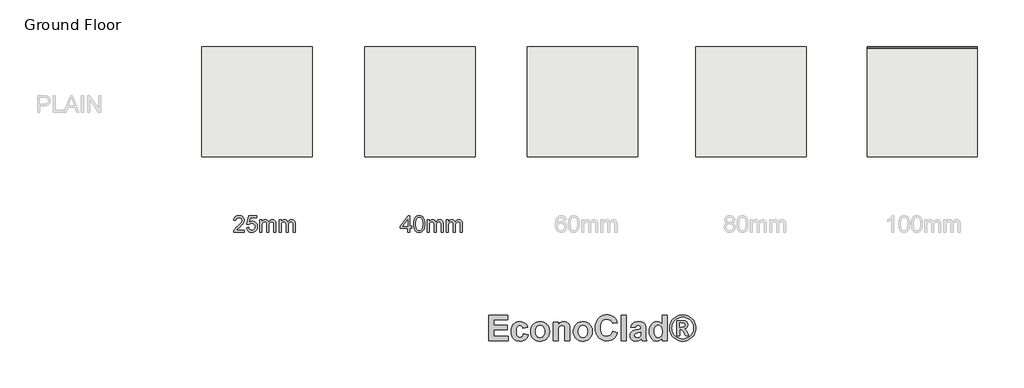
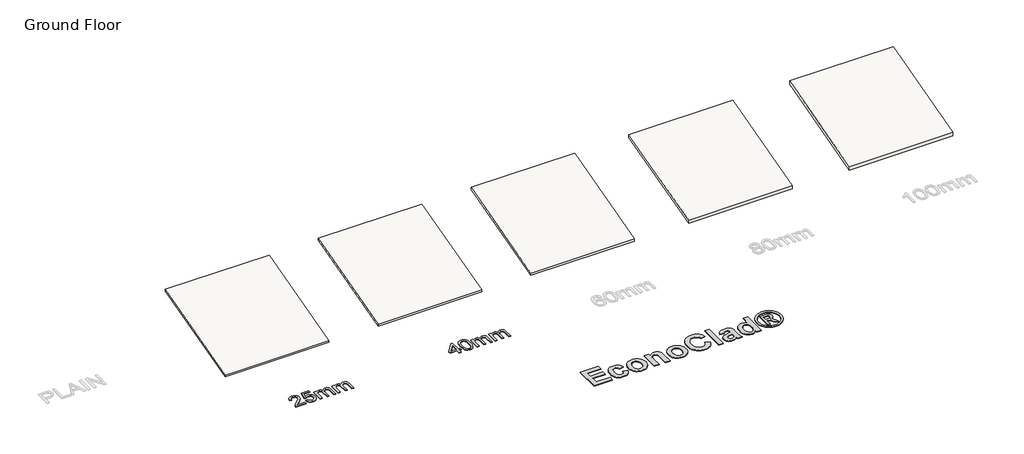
# One storey, part 1 of 2: 5 roofs, 3 proxies.
"""IFC4 building model written with IfcOpenShell, lengths in millimetres."""

from ifc_helpers import new_model, si_unit, frame, origin, origin_with_axes, place, context, project, spatial, polyline, outline, extrude, element, save

model = new_model("IFC4")

# Units and contexts
model_context = context("Model", 3, world=origin())
ifc_project = project(units=[si_unit("LENGTHUNIT", "METRE", prefix="MILLI")], contexts=[model_context])

# Site, building, storey
site = spatial("IfcSite", under=ifc_project)
building = spatial("IfcBuilding", under=site)
storey = spatial("IfcBuildingStorey", under=building, Name="Ground Floor", Elevation=0.0)

# Proxies
placement = place(None, origin())
element("IfcBuildingElementProxy", 1, Name="600mm Arial", ObjectType="600mm Arial", at=placement, inside=storey, context=model_context, shape_type="SweptSolid", body=[
    extrude(outline(polyline([(-7918.8390617, -2410.2451374), (-7918.8390617, -2485.58737), (-8314.3857829, -2485.58737), (-8312.7303139, -2459.0630782), (-8306.292379, -2433.6424323), (-8287.7143383, -2393.0466541), (-8260.5278588, -2353.6648865), (-8221.2012735, -2312.443709), (-8166.2029152, -2266.3297009), (-8084.9009943, -2194.1144652), (-8036.1198418, -2140.8083641), (-8021.8920056, -2119.02975), (-8011.7292655, -2097.5454415), (-8005.6316214, -2076.3554386), (-8003.5990734, -2055.4597412), (-8005.5166583, -2035.8010471), (-8011.269413, -2017.7334426), (-8020.8573375, -2001.2569278), (-8034.2804318, -1986.3715026), (-8050.7937348, -1974.0428572), (-8069.6522856, -1965.2366819), (-8090.8560841, -1959.9529768), (-8114.4051303, -1958.1917417), (-8139.2141724, -1959.9115901), (-8161.4020552, -1965.071135), (-8180.9687788, -1973.6703767), (-8197.9143432, -1985.709315), (-8211.6225461, -2000.7832797), (-8221.477185, -2018.4876007), (-8227.4782601, -2038.822278), (-8229.6257712, -2061.7873116), (-8304.9680038, -2052.3695325), (-8298.4886822, -2013.4752085), (-8286.7026628, -1979.4921092), (-8269.6099456, -1950.4202346), (-8247.2105306, -1926.2595845), (-8220.0194526, -1907.2676765), (-8188.5517465, -1893.702028), (-8152.8074121, -1885.5626388), (-8112.7864495, -1882.8495091), (-8072.4068021, -1885.8661415), (-8036.4693296, -1894.9160386), (-8004.9740323, -1909.9992004), (-7977.9209101, -1931.1156269), (-7956.1928798, -1956.7018196), (-7940.6728581, -1985.1942802), (-7931.3608451, -2016.5930085), (-7928.2568408, -2050.8980045), (-7931.6045669, -2086.9320459), (-7941.6477454, -2122.340688), (-7959.4716281, -2158.3563353), (-7986.1614668, -2196.2113926), (-8028.7070196, -2241.4056957), (-8094.0980442, -2299.4390805), (-8180.7710423, -2371.9118335), (-8214.7633386, -2410.2451374), (-7918.8390617, -2410.2451374)])), origin_with_axes(), (0.0, 0.0, 1.0), 20.0),
    extrude(outline(polyline([(-7843.4968291, -2325.4851257), (-7768.1545965, -2316.0673466), (-7762.5260019, -2340.2877775), (-7754.3222334, -2361.2984379), (-7743.543291, -2379.099328), (-7730.1891746, -2393.6904476), (-7714.2874753, -2405.0534027), (-7695.8657844, -2413.1697993), (-7674.9241018, -2418.0396372), (-7651.4624276, -2419.6629165), (-7622.767632, -2417.4050407), (-7597.4573507, -2410.6314135), (-7575.5315838, -2399.3420348), (-7556.9903312, -2383.5369045), (-7542.2474603, -2363.9977721), (-7531.7168382, -2341.5063866), (-7525.3984649, -2316.0627481), (-7523.2923405, -2287.6668566), (-7525.2651077, -2260.8298651), (-7531.1834093, -2236.9727177), (-7541.0472453, -2216.0954144), (-7554.8566157, -2198.1979554), (-7572.6575057, -2183.8413605), (-7594.4959006, -2173.5866499), (-7620.3718005, -2167.4338235), (-7650.2852052, -2165.3828814), (-7686.8342814, -2168.6570312), (-7716.4303879, -2178.4794804), (-7740.0668061, -2193.525854), (-7758.7368174, -2212.4717768), (-7834.07905, -2203.0539977), (-7768.1545965, -1892.2672882), (-7476.2034451, -1892.2672882), (-7476.2034451, -1967.6095208), (-7707.2333381, -1967.6095208), (-7739.4598008, -2133.597877), (-7712.8711296, -2114.5415897), (-7685.6386649, -2100.9299559), (-7657.7624068, -2092.7629756), (-7629.2423551, -2090.0406488), (-7592.5507246, -2093.4159661), (-7558.8481353, -2103.541918), (-7528.1345872, -2120.4185045), (-7500.4100804, -2144.0457257), (-7477.4588424, -2172.9796446), (-7461.065101, -2205.7763245), (-7451.2288561, -2242.4357653), (-7447.9501079, -2282.9579671), (-7450.9023609, -2321.9902468), (-7459.7591199, -2358.3001997), (-7474.520385, -2391.8878258), (-7495.186156, -2422.7531252), (-7526.4929138, -2454.3633857), (-7563.023596, -2476.9421431), (-7604.7782024, -2490.4893976), (-7651.7567332, -2495.0051491), (-7690.6372616, -2492.1034798), (-7725.7561965, -2483.3984721), (-7757.1135381, -2468.890126), (-7784.7092862, -2448.5784413), (-7807.6697213, -2423.4750936), (-7825.1211234, -2394.5917585), (-7837.0634927, -2361.9284359), (-7843.4968291, -2325.4851257)])), origin_with_axes(), (0.0, 0.0, 1.0), 20.0),
    extrude(outline(polyline([(-7363.1900962, -2485.58737), (-7363.1900962, -2042.9517534), (-7287.8478636, -2042.9517534), (-7287.8478636, -2115.7923885), (-7265.1863327, -2082.333521), (-7236.0500786, -2056.1219288), (-7201.4323829, -2039.180963), (-7162.3265268, -2033.5339743), (-7120.4247676, -2039.2913276), (-7102.5916878, -2046.4880191), (-7086.8371414, -2056.5633872), (-7061.7475893, -2084.2097192), (-7045.3400523, -2121.0898892), (-7017.8776614, -2082.7841764), (-6986.5525095, -2055.422953), (-6951.3645967, -2039.006219), (-6912.3139229, -2033.5339743), (-6882.1521978, -2035.8102442), (-6855.6784897, -2042.6390537), (-6832.8927987, -2054.0204029), (-6813.7951246, -2069.9542919), (-6798.6981672, -2090.6246615), (-6787.9146262, -2116.2154528), (-6781.4445016, -2146.7266657), (-6779.2877934, -2182.1583004), (-6779.2877934, -2485.58737), (-6854.630026, -2485.58737), (-6854.630026, -2214.531916), (-6856.3774655, -2176.9527702), (-6861.619784, -2151.6240948), (-6871.4422332, -2134.2784587), (-6886.9300652, -2120.6484308), (-6906.8508753, -2111.8192629), (-6929.9722587, -2108.8762069), (-6951.32321, -2110.7616022), (-6970.788766, -2116.4177879), (-6988.3689269, -2125.844764), (-7004.0636925, -2139.0425306), (-7016.971752, -2156.3973637), (-7026.1917945, -2178.2955394), (-7031.72382, -2204.7370578), (-7033.5678285, -2235.7219189), (-7033.5678285, -2485.58737), (-7108.9100611, -2485.58737), (-7108.9100611, -2206.1442065), (-7113.2694628, -2163.5434714), (-7118.7187148, -2146.8232348), (-7126.3476677, -2133.1564186), (-7136.459824, -2122.533826), (-7149.3586865, -2114.9462599), (-7165.044255, -2110.3937202), (-7183.5165297, -2108.8762069), (-7212.5424192, -2112.9229089), (-7239.2874402, -2125.0630147), (-7261.3603599, -2145.0022189), (-7276.3699453, -2172.4462157), (-7284.978384, -2210.5220022), (-7287.8478636, -2262.3565753), (-7287.8478636, -2485.58737), (-7363.1900962, -2485.58737)])), origin_with_axes(), (0.0, 0.0, 1.0), 20.0),
    extrude(outline(polyline([(-6666.2744445, -2485.58737), (-6666.2744445, -2042.9517534), (-6590.9322119, -2042.9517534), (-6590.9322119, -2115.7923885), (-6568.270681, -2082.333521), (-6539.134427, -2056.1219288), (-6504.5167312, -2039.180963), (-6465.4108751, -2033.5339743), (-6423.5091159, -2039.2913276), (-6405.6760362, -2046.4880191), (-6389.9214897, -2056.5633872), (-6364.8319377, -2084.2097192), (-6348.4244007, -2121.0898892), (-6320.9620097, -2082.7841764), (-6289.6368579, -2055.422953), (-6254.448945, -2039.006219), (-6215.3982712, -2033.5339743), (-6185.2365461, -2035.8102442), (-6158.7628381, -2042.6390537), (-6135.977147, -2054.0204029), (-6116.8794729, -2069.9542919), (-6101.7825155, -2090.6246615), (-6090.9989746, -2116.2154528), (-6084.52885, -2146.7266657), (-6082.3721418, -2182.1583004), (-6082.3721418, -2485.58737), (-6157.7143744, -2485.58737), (-6157.7143744, -2214.531916), (-6159.4618139, -2176.9527702), (-6164.7041323, -2151.6240948), (-6174.5265816, -2134.2784587), (-6190.0144136, -2120.6484308), (-6209.9352236, -2111.8192629), (-6233.056607, -2108.8762069), (-6254.4075583, -2110.7616022), (-6273.8731144, -2116.4177879), (-6291.4532752, -2125.844764), (-6307.1480408, -2139.0425306), (-6320.0561003, -2156.3973637), (-6329.2761428, -2178.2955394), (-6334.8081683, -2204.7370578), (-6336.6521768, -2235.7219189), (-6336.6521768, -2485.58737), (-6411.9944094, -2485.58737), (-6411.9944094, -2206.1442065), (-6416.3538111, -2163.5434714), (-6421.8030631, -2146.8232348), (-6429.432016, -2133.1564186), (-6439.5441724, -2122.533826), (-6452.4430348, -2114.9462599), (-6468.1286034, -2110.3937202), (-6486.6008781, -2108.8762069), (-6515.6267675, -2112.9229089), (-6542.3717885, -2125.0630147), (-6564.4447082, -2145.0022189), (-6579.4542937, -2172.4462157), (-6588.0627323, -2210.5220022), (-6590.9322119, -2262.3565753), (-6590.9322119, -2485.58737), (-6666.2744445, -2485.58737)])), origin_with_axes(), (0.0, 0.0, 1.0), 20.0),
])
element("IfcBuildingElementProxy", 2, Name="600mm Arial", ObjectType="600mm Arial", at=placement, inside=storey, context=model_context, shape_type="SweptSolid", body=[
    extrude(outline(polyline([(-2000.8138892, -2485.58737), (-2000.8138892, -2344.3206839), (-2273.9294824, -2344.3206839), (-2273.9294824, -2268.9784513), (-1981.978331, -1892.2672882), (-1925.4716566, -1892.2672882), (-1925.4716566, -2268.9784513), (-1850.129424, -2268.9784513), (-1850.129424, -2344.3206839), (-1925.4716566, -2344.3206839), (-1925.4716566, -2485.58737), (-2000.8138892, -2485.58737)]), holes=[polyline([(-2000.8138892, -2268.9784513), (-2000.8138892, -2036.1827247), (-2181.2232196, -2268.9784513), (-2000.8138892, -2268.9784513)])]), origin_with_axes(), (0.0, 0.0, 1.0), 20.0),
    extrude(outline(polyline([(-1784.2049704, -2189.0744819), (-1778.6683464, -2092.5974287), (-1771.7475664, -2051.6843523), (-1762.0584743, -2015.6549094), (-1749.642457, -1984.2147944), (-1734.5409011, -1957.0697016), (-1716.7538066, -1934.2196312), (-1696.2811736, -1915.6645831), (-1673.0540241, -1901.3079882), (-1647.0033803, -1891.0532776), (-1618.1292422, -1884.9004512), (-1586.4316098, -1882.8495091), (-1540.004902, -1887.7055514), (-1498.4342366, -1902.2736785), (-1463.669388, -1925.983673), (-1437.660131, -1958.2653181), (-1418.0152324, -1998.8427022), (-1402.3434594, -2047.4399138), (-1392.0795518, -2109.1521184), (-1388.6582492, -2189.0744819), (-1394.1396909, -2284.9997121), (-1400.9914931, -2325.7748328), (-1410.5840161, -2361.7582904), (-1422.9034644, -2393.212201), (-1437.9360425, -2420.3986805), (-1455.6817502, -2443.3177288), (-1476.1405877, -2461.9693459), (-1499.3953283, -2476.4225098), (-1525.5287455, -2486.7461983), (-1554.5408394, -2492.9404114), (-1586.4316098, -2495.0051491), (-1627.9286989, -2491.4182996), (-1664.7168984, -2480.6577513), (-1696.7962084, -2462.723504), (-1724.1666288, -2437.6155578), (-1750.4334033, -2392.2281167), (-1769.195385, -2335.675457), (-1780.4525741, -2267.9575787), (-1784.2049704, -2189.0744819)]), holes=[polyline([(-1708.8627378, -2188.9273291), (-1706.6554458, -2254.4241198), (-1700.0335699, -2307.4405138), (-1688.9971101, -2347.9765112), (-1673.5460663, -2376.0321118), (-1654.8576609, -2395.1205889), (-1634.1091164, -2408.7552153), (-1611.3004327, -2416.9359912), (-1586.4316098, -2419.6629165), (-1561.5627869, -2416.9267941), (-1538.7541032, -2408.7184271), (-1518.0055587, -2395.0378154), (-1499.3171534, -2375.884959), (-1483.8661096, -2347.7833731), (-1472.8296497, -2307.2565728), (-1466.2077738, -2254.3045582), (-1464.0004818, -2188.9273291), (-1466.1341974, -2125.1641823), (-1472.5353441, -2073.0812888), (-1483.203922, -2032.6786487), (-1498.139931, -2003.9562619), (-1516.5156366, -1983.9342843), (-1537.5033045, -1969.6328718), (-1561.1029344, -1961.0520242), (-1587.3145266, -1958.1917417), (-1612.0545908, -1960.7117334), (-1634.4769984, -1968.2717084), (-1654.5817494, -1980.8716667), (-1672.3688439, -1998.5116084), (-1688.3349225, -2029.781578), (-1699.7392643, -2071.9408546), (-1706.5818694, -2124.9894383), (-1708.8627378, -2188.9273291)])]), origin_with_axes(), (0.0, 0.0, 1.0), 20.0),
    extrude(outline(polyline([(-1303.8982375, -2485.58737), (-1303.8982375, -2042.9517534), (-1228.5560049, -2042.9517534), (-1228.5560049, -2115.7923885), (-1205.894474, -2082.333521), (-1176.75822, -2056.1219288), (-1142.1405242, -2039.180963), (-1103.0346681, -2033.5339743), (-1061.1329089, -2039.2913276), (-1043.2998292, -2046.4880191), (-1027.5452827, -2056.5633872), (-1002.4557307, -2084.2097192), (-986.0481937, -2121.0898892), (-958.5858027, -2082.7841764), (-927.2606509, -2055.422953), (-892.072738, -2039.006219), (-853.0220642, -2033.5339743), (-822.8603391, -2035.8102442), (-796.3866311, -2042.6390537), (-773.60094, -2054.0204029), (-754.5032659, -2069.9542919), (-739.4063085, -2090.6246615), (-728.6227676, -2116.2154528), (-722.152643, -2146.7266657), (-719.9959348, -2182.1583004), (-719.9959348, -2485.58737), (-795.3381674, -2485.58737), (-795.3381674, -2214.531916), (-797.0856069, -2176.9527702), (-802.3279253, -2151.6240948), (-812.1503746, -2134.2784587), (-827.6382066, -2120.6484308), (-847.5590166, -2111.8192629), (-870.6804, -2108.8762069), (-892.0313513, -2110.7616022), (-911.4969074, -2116.4177879), (-929.0770682, -2125.844764), (-944.7718338, -2139.0425306), (-957.6798933, -2156.3973637), (-966.8999358, -2178.2955394), (-972.4319613, -2204.7370578), (-974.2759698, -2235.7219189), (-974.2759698, -2485.58737), (-1049.6182024, -2485.58737), (-1049.6182024, -2206.1442065), (-1053.9776041, -2163.5434714), (-1059.4268561, -2146.8232348), (-1067.055809, -2133.1564186), (-1077.1679654, -2122.533826), (-1090.0668278, -2114.9462599), (-1105.7523964, -2110.3937202), (-1124.2246711, -2108.8762069), (-1153.2505605, -2112.9229089), (-1179.9955815, -2125.0630147), (-1202.0685013, -2145.0022189), (-1217.0780867, -2172.4462157), (-1225.6865253, -2210.5220022), (-1228.5560049, -2262.3565753), (-1228.5560049, -2485.58737), (-1303.8982375, -2485.58737)])), origin_with_axes(), (0.0, 0.0, 1.0), 20.0),
    extrude(outline(polyline([(-606.9825859, -2485.58737), (-606.9825859, -2042.9517534), (-531.6403532, -2042.9517534), (-531.6403532, -2115.7923885), (-508.9788223, -2082.333521), (-479.8425683, -2056.1219288), (-445.2248726, -2039.180963), (-406.1190165, -2033.5339743), (-364.2172572, -2039.2913276), (-346.3841775, -2046.4880191), (-330.6296311, -2056.5633872), (-305.540079, -2084.2097192), (-289.132542, -2121.0898892), (-261.6701511, -2082.7841764), (-230.3449992, -2055.422953), (-195.1570864, -2039.006219), (-156.1064126, -2033.5339743), (-125.9446875, -2035.8102442), (-99.4709794, -2042.6390537), (-76.6852883, -2054.0204029), (-57.5876143, -2069.9542919), (-42.4906569, -2090.6246615), (-31.7071159, -2116.2154528), (-25.2369913, -2146.7266657), (-23.0802831, -2182.1583004), (-23.0802831, -2485.58737), (-98.4225157, -2485.58737), (-98.4225157, -2214.531916), (-100.1699552, -2176.9527702), (-105.4122736, -2151.6240948), (-115.2347229, -2134.2784587), (-130.7225549, -2120.6484308), (-150.6433649, -2111.8192629), (-173.7647483, -2108.8762069), (-195.1156996, -2110.7616022), (-214.5812557, -2116.4177879), (-232.1614165, -2125.844764), (-247.8561822, -2139.0425306), (-260.7642417, -2156.3973637), (-269.9842842, -2178.2955394), (-275.5163097, -2204.7370578), (-277.3603182, -2235.7219189), (-277.3603182, -2485.58737), (-352.7025508, -2485.58737), (-352.7025508, -2206.1442065), (-357.0619524, -2163.5434714), (-362.5112045, -2146.8232348), (-370.1401574, -2133.1564186), (-380.2523137, -2122.533826), (-393.1511762, -2114.9462599), (-408.8367447, -2110.3937202), (-427.3090194, -2108.8762069), (-456.3349088, -2112.9229089), (-483.0799299, -2125.0630147), (-505.1528496, -2145.0022189), (-520.162435, -2172.4462157), (-528.7708737, -2210.5220022), (-531.6403532, -2262.3565753), (-531.6403532, -2485.58737), (-606.9825859, -2485.58737)])), origin_with_axes(), (0.0, 0.0, 1.0), 20.0),
])
element("IfcBuildingElementProxy", 3, Name="900mm Arial", ObjectType="900mm Arial", at=placement, inside=storey, context=model_context, shape_type="SweptSolid", body=[
    extrude(outline(polyline([(938.3193538, -6419.7488861), (938.3193538, -5497.7851027), (1626.1336049, -5497.7851027), (1626.1336049, -5658.7629062), (1113.931503, -5658.7629062), (1113.931503, -5863.6437469), (1596.8649133, -5863.6437469), (1596.8649133, -6024.6215504), (1113.931503, -6024.6215504), (1113.931503, -6258.7710827), (1640.7679506, -6258.7710827), (1640.7679506, -6419.7488861), (938.3193538, -6419.7488861)])), origin_with_axes(), (0.0, 0.0, 1.0), 20.0),
    extrude(outline(polyline([(2343.2165475, -5936.8154758), (2167.6043983, -5966.0841673), (2162.1808297, -5942.1675876), (2154.1419435, -5921.4093969), (2143.4877396, -5903.8095954), (2130.2182181, -5889.3681829), (2114.5477492, -5878.1137421), (2096.6907033, -5870.0748559), (2076.6470803, -5865.2515242), (2054.4168802, -5863.6437469), (2025.0052752, -5866.6592225), (1998.7377678, -5875.7056491), (1975.6143582, -5890.7830268), (1955.6350463, -5911.8913556), (1939.5286911, -5940.059613), (1928.0241517, -5976.3167763), (1921.1214281, -6020.6628455), (1918.8205202, -6073.0978208), (1921.2143219, -6131.3636681), (1928.3957269, -6180.3973012), (1940.3647353, -6220.1987202), (1957.121347, -6250.7679248), (1977.9081204, -6273.4768852), (2001.9676137, -6289.6975712), (2029.2998268, -6299.4299828), (2059.9047599, -6302.67412), (2082.9352757, -6300.8233897), (2103.7792145, -6295.271199), (2122.4365762, -6286.0175477), (2138.9073609, -6273.062436), (2153.1486944, -6255.5769652), (2165.1177028, -6232.732237), (2174.814386, -6204.5282513), (2182.238744, -6170.9650081), (2357.8508933, -6200.2336996), (2341.6659357, -6254.6480273), (2319.4071529, -6301.9595523), (2291.074545, -6342.1682748), (2256.668112, -6375.2741947), (2216.0449402, -6401.1343985), (2169.0621163, -6419.6059726), (2115.7196402, -6430.6889171), (2056.0175118, -6434.3832319), (1988.1836034, -6428.5666511), (1956.9837928, -6421.2959251), (1927.5954111, -6411.1169087), (1900.0184585, -6398.029602), (1874.252935, -6382.0340048), (1850.2988405, -6363.1301172), (1828.1561749, -6341.3179393), (1808.2465334, -6316.9368906), (1790.9915107, -6290.3263907), (1776.3911069, -6261.4864398), (1764.445322, -6230.4170378), (1748.5176087, -6161.5898803), (1743.208371, -6083.8449184), (1748.4818804, -6005.2210383), (1764.3024085, -5935.8150811), (1776.1678045, -5904.5688235), (1790.6699553, -5875.6270467), (1807.8088607, -5848.9897506), (1827.5845208, -5824.6569352), (1849.6110691, -5802.9251461), (1873.5026389, -5784.0909289), (1899.2592304, -5768.1542835), (1926.8808435, -5755.1152101), (1956.3674781, -5744.9737085), (1987.7191344, -5737.7297788), (2056.0175118, -5731.934635), (2111.8824118, -5735.1001698), (2161.7163607, -5744.596774), (2205.5193586, -5760.4244478), (2243.2914053, -5782.5831911), (2275.6041551, -5811.2159174), (2303.029262, -5846.4655403), (2325.5667262, -5888.3320598), (2343.2165475, -5936.8154758)])), origin_with_axes(), (0.0, 0.0, 1.0), 20.0),
    extrude(outline(polyline([(2445.6569679, -6073.5551441), (2448.3651793, -6029.6592524), (2456.4898137, -5986.4636371), (2470.0308709, -5943.9682981), (2488.988351, -5902.1732354), (2512.9049308, -5863.179278), (2541.3232868, -5829.0872547), (2574.2434191, -5799.8971656), (2611.6653277, -5775.6090107), (2652.495724, -5756.5014713), (2695.6413196, -5742.8532289), (2741.1021144, -5734.6642835), (2788.8781085, -5731.934635), (2825.8659172, -5733.481674), (2861.1423364, -5738.122791), (2894.707366, -5745.857986), (2926.5610061, -5756.6872589), (2956.7032566, -5770.6106099), (2985.1341175, -5787.6280388), (3011.8535889, -5807.7395457), (3036.8616707, -5830.9451306), (3059.5045336, -5856.5159345), (3079.1283481, -5883.7230983), (3095.7331142, -5912.5666221), (3109.3188319, -5943.0465058), (3119.8855013, -5975.1627495), (3127.4331222, -6008.9153531), (3133.471219, -6081.3296402), (3131.945617, -6118.6425773), (3127.3688111, -6154.3227272), (3119.7408013, -6188.37009), (3109.0615876, -6220.7846656), (3095.3311699, -6251.5664542), (3078.5495483, -6280.7154557), (3058.7167228, -6308.23167), (3035.8326933, -6334.1150972), (3010.6370375, -6357.6154413), (2983.8693327, -6377.9824061), (2955.5295792, -6395.2159918), (2925.6177767, -6409.3161982), (2894.1339254, -6420.2830255), (2861.0780253, -6428.1164735), (2826.4500763, -6432.8165423), (2790.2500784, -6434.3832319), (2744.9393428, -6431.7750599), (2700.7004587, -6423.950544), (2657.5334261, -6410.9096841), (2615.4382449, -6392.6524803), (2576.3656851, -6369.3504288), (2542.2665161, -6341.1750257), (2513.1407381, -6308.1262713), (2488.988351, -6270.2041653), (2470.0308709, -6227.6445152), (2456.4898137, -6180.6831283), (2448.3651793, -6129.3200046), (2445.6569679, -6073.5551441)]), holes=[polyline([(2621.2691171, -6083.1589335), (2624.3060297, -6133.2143984), (2633.4167674, -6177.0531246), (2648.6013303, -6214.6751121), (2669.8597183, -6246.080361), (2695.5770085, -6270.8401305), (2724.1382781, -6288.5256802), (2755.5435269, -6299.13701), (2789.7927551, -6302.67412), (2824.0276919, -6299.13701), (2855.3900667, -6288.5256802), (2883.8798795, -6270.8401305), (2909.4971302, -6246.080361), (2930.6554788, -6214.589364), (2945.7685849, -6176.7101321), (2954.8364485, -6132.4426653), (2957.8590698, -6081.7869636), (2954.8364485, -6032.3317355), (2945.7685849, -5988.9217499), (2930.6554788, -5951.5570067), (2909.4971302, -5920.237506), (2883.8798795, -5895.4777364), (2855.3900667, -5877.7921867), (2824.0276919, -5867.1808569), (2789.7927551, -5863.6437469), (2755.5435269, -5867.1808569), (2724.1382781, -5877.7921867), (2695.5770085, -5895.4777364), (2669.8597183, -5920.237506), (2648.6013303, -5951.6427548), (2633.4167674, -5989.2647424), (2624.3060297, -6033.1034686), (2621.2691171, -6083.1589335)])]), origin_with_axes(), (0.0, 0.0, 1.0), 20.0),
    extrude(outline(polyline([(3865.1885074, -6419.7488861), (3689.5763582, -6419.7488861), (3689.5763582, -6073.7838057), (3686.8324183, -5983.2337913), (3678.6005988, -5931.5562578), (3664.1377493, -5902.9163858), (3642.7007194, -5881.4793558), (3615.3184865, -5868.1026492), (3583.020028, -5863.6437469), (3561.1899859, -5865.2372328), (3540.5175434, -5870.0176905), (3521.0027004, -5877.98512), (3502.6454571, -5889.1395212), (3486.2675663, -5902.9306771), (3472.6907806, -5918.8083706), (3461.9151003, -5936.7726017), (3453.9405251, -5956.8233704), (3444.0794914, -6016.8756369), (3440.7924801, -6112.6562867), (3440.7924801, -6419.7488861), (3265.1803309, -6419.7488861), (3265.1803309, -5746.5689808), (3440.7924801, -5746.5689808), (3440.7924801, -5843.5215215), (3462.3331223, -5817.368345), (3485.2242975, -5794.7022587), (3509.4660055, -5775.5232626), (3535.0582464, -5759.8313567), (3562.0010202, -5747.6265409), (3590.2943269, -5738.9088154), (3619.9381664, -5733.6781801), (3650.9325389, -5731.934635), (3704.3250348, -5737.2510185), (3752.9156359, -5753.2001687), (3793.5030793, -5777.3811385), (3822.8861016, -5807.3929804), (3843.0369098, -5842.5211268), (3855.9277104, -5882.05101), (3862.8733081, -5932.8424796), (3865.1885074, -6001.7553851), (3865.1885074, -6419.7488861)])), origin_with_axes(), (0.0, 0.0, 1.0), 20.0),
    extrude(outline(polyline([(3996.8976193, -6073.5551441), (3999.6058307, -6029.6592524), (4007.7304651, -5986.4636371), (4021.2715223, -5943.9682981), (4040.2290025, -5902.1732354), (4064.1455822, -5863.179278), (4092.5639382, -5829.0872547), (4125.4840705, -5799.8971656), (4162.9059791, -5775.6090107), (4203.7363754, -5756.5014713), (4246.881971, -5742.8532289), (4292.3427658, -5734.6642835), (4340.1187599, -5731.934635), (4377.1065686, -5733.481674), (4412.3829878, -5738.122791), (4445.9480174, -5745.857986), (4477.8016575, -5756.6872589), (4507.943908, -5770.6106099), (4536.3747689, -5787.6280388), (4563.0942403, -5807.7395457), (4588.1023222, -5830.9451306), (4610.745185, -5856.5159345), (4630.3689995, -5883.7230983), (4646.9737656, -5912.5666221), (4660.5594833, -5943.0465058), (4671.1261527, -5975.1627495), (4678.6737736, -6008.9153531), (4684.7118704, -6081.3296402), (4683.1862684, -6118.6425773), (4678.6094625, -6154.3227272), (4670.9814527, -6188.37009), (4660.302239, -6220.7846656), (4646.5718213, -6251.5664542), (4629.7901997, -6280.7154557), (4609.9573742, -6308.23167), (4587.0733447, -6334.1150972), (4561.8776889, -6357.6154413), (4535.1099842, -6377.9824061), (4506.7702306, -6395.2159918), (4476.8584282, -6409.3161982), (4445.3745769, -6420.2830255), (4412.3186767, -6428.1164735), (4377.6907277, -6432.8165423), (4341.4907298, -6434.3832319), (4296.1799942, -6431.7750599), (4251.9411101, -6423.950544), (4208.7740775, -6410.9096841), (4166.6788964, -6392.6524803), (4127.6063365, -6369.3504288), (4093.5071675, -6341.1750257), (4064.3813895, -6308.1262713), (4040.2290025, -6270.2041653), (4021.2715223, -6227.6445152), (4007.7304651, -6180.6831283), (3999.6058307, -6129.3200046), (3996.8976193, -6073.5551441)]), holes=[polyline([(4172.5097685, -6083.1589335), (4175.5466811, -6133.2143984), (4184.6574188, -6177.0531246), (4199.8419817, -6214.6751121), (4221.1003697, -6246.080361), (4246.8176599, -6270.8401305), (4275.3789295, -6288.5256802), (4306.7841783, -6299.13701), (4341.0334065, -6302.67412), (4375.2683433, -6299.13701), (4406.6307181, -6288.5256802), (4435.1205309, -6270.8401305), (4460.7377816, -6246.080361), (4481.8961302, -6214.589364), (4497.0092363, -6176.7101321), (4506.0771, -6132.4426653), (4509.0997212, -6081.7869636), (4506.0771, -6032.3317355), (4497.0092363, -5988.9217499), (4481.8961302, -5951.5570067), (4460.7377816, -5920.237506), (4435.1205309, -5895.4777364), (4406.6307181, -5877.7921867), (4375.2683433, -5867.1808569), (4341.0334065, -5863.6437469), (4306.7841783, -5867.1808569), (4275.3789295, -5877.7921867), (4246.8176599, -5895.4777364), (4221.1003697, -5920.237506), (4199.8419817, -5951.6427548), (4184.6574188, -5989.2647424), (4175.5466811, -6033.1034686), (4172.5097685, -6083.1589335)])]), origin_with_axes(), (0.0, 0.0, 1.0), 20.0),
    extrude(outline(polyline([(5416.4291588, -6068.5245877), (5592.041308, -6127.0619708), (5567.7888815, -6196.4965107), (5536.6480227, -6256.398718), (5498.6187316, -6306.7685927), (5453.7010082, -6347.6061347), (5402.0806401, -6379.1685885), (5343.9434149, -6401.7131983), (5279.2893326, -6415.2399642), (5208.1183933, -6419.7488861), (5163.1256403, -6417.8231263), (5120.1836965, -6412.0458467), (5079.2925619, -6402.4170474), (5040.4522365, -6388.9367284), (5003.6627203, -6371.6048897), (4968.9240133, -6350.4215313), (4936.2361154, -6325.3866532), (4905.5990268, -6296.5002554), (4877.8380731, -6264.2732537), (4853.7785798, -6229.2165641), (4833.420547, -6191.3301865), (4816.7639748, -6150.614121), (4803.808863, -6107.0683675), (4794.5552118, -6060.6929261), (4789.003021, -6011.4877967), (4787.1522908, -5959.4529794), (4789.0190988, -5904.4955803), (4794.6195229, -5852.6965703), (4803.953563, -5804.0559494), (4817.0212191, -5758.5737176), (4833.8224914, -5716.2498748), (4854.3573796, -5677.0844211), (4878.6258839, -5641.0773565), (4906.6280043, -5608.228681), (4937.6741829, -5578.9135425), (4971.0748619, -5553.5070892), (5006.8300414, -5532.009321), (5044.9397214, -5514.420238), (5085.4039018, -5500.73984), (5128.2225827, -5490.9681272), (5173.395764, -5485.1050995), (5220.9234458, -5483.150757), (5262.4541185, -5484.7621071), (5301.9840017, -5489.5961573), (5339.5130954, -5497.6529077), (5375.0413997, -5508.9323583), (5408.5689145, -5523.4345091), (5440.0956398, -5541.15936), (5469.6215757, -5562.1069111), (5497.1467222, -5586.2771623), (5526.829863, -5620.0190474), (5552.5400075, -5660.4207032), (5574.2771559, -5707.4821296), (5592.041308, -5761.2033266), (5416.4291588, -5790.4720181), (5405.3605057, -5758.3093275), (5389.5328319, -5729.7337666), (5368.9461375, -5704.7453354), (5343.6004224, -5683.3440338), (5314.3817506, -5666.1872642), (5282.176186, -5653.9324288), (5246.9837285, -5646.5795275), (5208.8043782, -5644.1285604), (5156.6195017, -5648.580317), (5109.5938037, -5661.9355866), (5067.7272842, -5684.1943694), (5031.0199433, -5715.3566652), (5015.0225597, -5734.5410206), (5001.1581606, -5756.4800343), (4979.8283158, -5808.6220368), (4967.0304089, -5871.7826726), (4962.76444, -5945.9619419), (4966.9017868, -6024.4786369), (4979.3138271, -6090.8190988), (5000.000561, -6144.9833278), (5013.446938, -6167.4993549), (5028.9619884, -6186.9713238), (5064.5546038, -6218.3837183), (5105.1349015, -6240.821143), (5150.7028814, -6254.2835978), (5201.2585437, -6258.7710827), (5238.8948226, -6255.9056663), (5273.8300357, -6247.3094173), (5306.064183, -6232.9823357), (5335.5972646, -6212.9244213), (5361.7861695, -6186.7069337), (5383.9877868, -6153.9011322), (5402.2021166, -6114.5070169), (5416.4291588, -6068.5245877)])), origin_with_axes(), (0.0, 0.0, 1.0), 20.0),
    extrude(outline(polyline([(5738.3847657, -6419.7488861), (5738.3847657, -5497.7851027), (5913.9969149, -5497.7851027), (5913.9969149, -6419.7488861), (5738.3847657, -6419.7488861)])), origin_with_axes(), (0.0, 0.0, 1.0), 20.0),
    extrude(outline(polyline([(6235.9525218, -5951.4498216), (6074.9747184, -5922.18113), (6090.1021158, -5876.8489574), (6109.8742031, -5837.8049802), (6134.2909802, -5805.0491985), (6163.3524471, -5778.5816122), (6198.5306132, -5758.1735597), (6241.2974879, -5743.5963793), (6291.6530713, -5734.8500711), (6349.5973632, -5731.934635), (6402.1466692, -5733.6996172), (6447.5217159, -5738.9945636), (6485.7225033, -5747.8194742), (6516.7490312, -5760.1743491), (6542.1590574, -5775.2374355), (6563.5103392, -5792.1869805), (6580.8028767, -5811.0229841), (6594.0366698, -5831.7454464), (6603.8405382, -5857.9486427), (6610.8433013, -5893.2268483), (6615.0449592, -5937.5800632), (6616.4455118, -5991.0082875), (6616.4455118, -6198.633068), (6618.760711, -6275.692045), (6625.7063087, -6329.4275333), (6638.9972673, -6373.0447436), (6660.3485491, -6419.7488861), (6484.7363999, -6419.7488861), (6468.2727609, -6363.9554429), (6462.0988963, -6341.7752626), (6416.6523928, -6382.2197924), (6368.118957, -6411.1740742), (6316.3842581, -6428.5809425), (6261.3339653, -6434.3832319), (6213.9081094, -6430.8604133), (6171.7843455, -6420.2919576), (6134.9626738, -6402.6778646), (6103.4430941, -6378.0181345), (6078.1831272, -6347.9848556), (6060.1402937, -6314.2501162), (6049.3145935, -6276.8139162), (6045.7060268, -6235.6762558), (6047.3138041, -6207.9796131), (6052.1371358, -6181.8264366), (6060.176022, -6157.2167262), (6071.4304627, -6134.150482), (6085.5860482, -6113.156484), (6102.3283686, -6094.7635123), (6121.6574239, -6078.971567), (6143.5732142, -6065.7806479), (6200.2241386, -6043.5433021), (6277.3402809, -6024.3928887), (6377.2082577, -6001.8125505), (6440.8333626, -5980.7185131), (6440.8333626, -5962.1969192), (6435.3740656, -5916.5789195), (6428.5499444, -5899.5150437), (6418.9961747, -5886.2812506), (6405.6694878, -5876.3773427), (6387.5266148, -5869.3031228), (6364.5675557, -5865.0585909), (6336.7923106, -5863.6437469), (6300.3779424, -5868.5028071), (6285.5578091, -5874.5766322), (6272.9957095, -5883.0799874), (6252.30183, -5909.8905662), (6235.9525218, -5951.4498216)]), holes=[polyline([(6440.8333626, -6112.427625), (6341.822867, -6136.780091), (6285.8007621, -6150.7570345), (6253.1021458, -6164.5624818), (6239.196659, -6176.2956829), (6229.2641685, -6189.5437674), (6223.3046742, -6204.3067353), (6221.318176, -6220.5845867), (6222.9116619, -6236.7123789), (6227.6921196, -6251.7111542), (6235.6595491, -6265.5809125), (6246.8139503, -6278.321654), (6260.4264643, -6288.9758579), (6275.7682321, -6296.5860035), (6292.8392536, -6301.1520909), (6311.6395288, -6302.67412), (6333.4338426, -6300.9019922), (6354.6850849, -6295.5856088), (6375.3932559, -6286.7249697), (6395.5583553, -6274.3200751), (6420.139483, -6250.4249324), (6434.4308363, -6221.727895), (6439.232731, -6192.1733764), (6440.8333626, -6144.2115947), (6440.8333626, -6112.427625)])]), origin_with_axes(), (0.0, 0.0, 1.0), 20.0),
    extrude(outline(polyline([(7392.0658375, -6419.7488861), (7216.4536883, -6419.7488861), (7216.4536883, -6322.7963454), (7195.9098679, -6349.2282033), (7173.6082111, -6372.0443489), (7149.5487179, -6391.244782), (7123.7313881, -6406.8295028), (7096.9851205, -6418.8842593), (7070.1388133, -6427.4947996), (7043.1924667, -6432.6611238), (7016.1460806, -6434.3832319), (6962.9036439, -6428.5523598), (6913.6199121, -6411.0597433), (6868.2948851, -6381.9053826), (6826.928563, -6341.0892776), (6808.465921, -6316.6117623), (6792.4649646, -6289.8261934), (6767.8481085, -6229.3308949), (6753.0779949, -6159.6033822), (6748.1546237, -6080.6436553), (6753.0708492, -6000.3548325), (6767.8195258, -5930.2986187), (6778.8810333, -5899.1077401), (6792.4006535, -5870.4750138), (6808.3783865, -5844.4004397), (6826.8142322, -5820.8840179), (6868.7450628, -5781.9686629), (6915.8779459, -5754.1719807), (6968.2128816, -5737.4939715), (7025.74987, -5731.934635), (7078.9994523, -5737.6940504), (7128.5332828, -5754.9722965), (7174.3513615, -5783.7693734), (7216.4536883, -5824.085281), (7216.4536883, -5497.7851027), (7392.0658375, -5497.7851027), (7392.0658375, -6419.7488861)]), holes=[polyline([(6923.7667729, -6070.3538809), (6925.5960661, -6121.974249), (6931.0839458, -6165.9344517), (6940.2304119, -6202.2344891), (6953.0354645, -6230.8743611), (6976.2874963, -6262.2867556), (7003.7411859, -6284.7241803), (7035.3965335, -6298.1866351), (7071.2535389, -6302.67412), (7100.4078996, -6299.3085063), (7127.2756438, -6289.2116652), (7151.8567714, -6272.3835967), (7174.1512825, -6248.8243008), (7192.6585851, -6218.5766516), (7205.8780868, -6181.683523), (7213.8097879, -6138.1449152), (7216.4536883, -6087.9608282), (7213.8883904, -6032.4603577), (7206.1924966, -5985.3203288), (7193.366007, -5946.5407417), (7175.4089216, -5916.1215962), (7153.435966, -5893.1625372), (7128.5618656, -5876.7632093), (7100.7866204, -5866.9236125), (7070.1102306, -5863.6437469), (7040.2698849, -5866.8878841), (7012.9448174, -5876.6202957), (6988.1350281, -5892.8409817), (6965.840517, -5915.5499421), (6947.433254, -5944.6900114), (6934.2852089, -5980.2040244), (6926.3963819, -6022.0919809), (6923.7667729, -6070.3538809)])]), origin_with_axes(), (0.0, 0.0, 1.0), 20.0),
    extrude(outline(polyline([(7955.4881496, -5483.150757), (8016.0334678, -5486.973694), (8075.3354383, -5498.442505), (8133.394061, -5517.55719), (8190.209336, -5544.3177491), (8243.3946073, -5578.2168391), (8290.5632188, -5618.747117), (8331.7151706, -5665.9085828), (8366.8504626, -5719.7012366), (8394.9615546, -5777.4740323), (8415.0409059, -5836.5759238), (8427.0885168, -5897.0069112), (8431.104387, -5958.7669944), (8427.1671192, -6020.1340655), (8415.3553157, -6080.0720012), (8395.6689766, -6138.5808015), (8368.1081017, -6195.6604666), (8333.5015897, -6248.9171946), (8292.6783391, -6295.9571839), (8245.6383497, -6336.7804346), (8192.3816217, -6371.3869466), (8135.3019567, -6398.9478214), (8076.7931563, -6418.6341606), (8016.8552206, -6430.4459641), (7955.4881496, -6434.3832319), (7894.1210785, -6430.4459641), (7834.1831429, -6418.6341606), (7775.6743425, -6398.9478214), (7718.5946774, -6371.3869466), (7665.3379494, -6336.7804346), (7618.2979601, -6295.9571839), (7577.4747094, -6248.9171946), (7542.8681974, -6195.6604666), (7515.3073226, -6138.5808015), (7495.6209834, -6080.0720012), (7483.8091799, -6020.1340655), (7479.8719121, -5958.7669944), (7483.8877824, -5897.0069112), (7495.9353932, -5836.5759238), (7516.0147446, -5777.4740323), (7544.1258365, -5719.7012366), (7579.2611286, -5665.9085828), (7620.4130804, -5618.747117), (7667.5816919, -5578.2168391), (7720.7669631, -5544.3177491), (7777.5822382, -5517.55719), (7835.6408609, -5498.442505), (7894.9428314, -5486.973694), (7955.4881496, -5483.150757)]), holes=[polyline([(7955.2594879, -5570.9568316), (7905.932882, -5574.0652009), (7857.649545, -5583.3903089), (7810.4094767, -5598.9321556), (7764.2126771, -5620.690741), (7720.9598964, -5648.2659072), (7682.5518845, -5681.2574963), (7648.9886413, -5719.6655082), (7620.2701668, -5763.4899431), (7597.261088, -5810.5799522), (7580.8260317, -5858.7846868), (7570.964998, -5908.104147), (7567.6779867, -5958.5383328), (7570.8863955, -6008.5937977), (7580.511622, -6057.4630803), (7596.553666, -6105.1461805), (7619.0125277, -6151.6430984), (7647.2236591, -6195.031647), (7680.5225123, -6233.3896392), (7718.9090872, -6266.7170751), (7762.3833839, -6295.0139546), (7808.9517586, -6317.5728558), (7856.6205675, -6333.6863566), (7905.3898106, -6343.3544571), (7955.2594879, -6346.5771573), (8005.3078071, -6343.3544571), (8054.1556527, -6333.6863566), (8101.8030245, -6317.5728558), (8148.2499227, -6295.0139546), (8191.5955973, -6266.7170751), (8229.9392981, -6233.3896392), (8263.2810254, -6195.031647), (8291.6207789, -6151.6430984), (8314.2296998, -6105.1461805), (8330.3789291, -6057.4630803), (8340.0684666, -6008.5937977), (8343.2983124, -5958.5383328), (8340.0113012, -5908.104147), (8330.1502674, -5858.7846868), (8313.7152111, -5810.5799522), (8290.7061323, -5763.4899431), (8261.9662209, -5719.6655082), (8228.3386666, -5681.2574963), (8189.8234695, -5648.2659072), (8146.4206295, -5620.690741), (8100.0880622, -5598.9321556), (8052.7836828, -5583.3903089), (8004.5074914, -5574.0652009), (7955.2594879, -5570.9568316)])]), origin_with_axes(), (0.0, 0.0, 1.0), 20.0),
    extrude(outline(polyline([(7743.2901359, -6229.5023911), (7743.2901359, -5688.0315977), (7842.3006315, -5688.0315977), (7998.019217, -5689.4035676), (8041.7221753, -5697.0923157), (8074.5065398, -5711.0120938), (8099.5735734, -5732.5348719), (8120.1245395, -5763.0326198), (8133.8442386, -5799.9043113), (8138.4174717, -5840.54892), (8136.2952057, -5868.7600514), (8129.9284078, -5894.8560625), (8119.317078, -5918.8369533), (8104.4612163, -5940.7027239), (8085.7609805, -5959.5387275), (8063.6165286, -5974.4303176), (8038.0278605, -5985.3774943), (8008.9949763, -5992.3802574), (8029.2601152, -6002.155543), (8044.3232016, -6012.7311445), (8078.5081187, -6054.3475652), (8115.7799681, -6120.2021212), (8167.6861632, -6229.5023911), (8065.2457428, -6229.5023911), (8014.7115176, -6142.8396248), (7969.7509202, -6071.4971892), (7937.3095482, -6032.6247082), (7923.3397503, -6022.7208004), (7907.6121161, -6015.6465805), (7870.8833381, -6009.9872046), (7845.7305563, -6009.9872046), (7845.7305563, -6229.5023911), (7743.2901359, -6229.5023911)]), holes=[polyline([(7845.7305563, -5922.18113), (7885.7463455, -5922.18113), (7954.85933, -5920.3804195), (7991.6166907, -5914.978288), (8010.0239537, -5905.0315061), (8024.0866454, -5889.5968445), (8033.0044498, -5870.1891868), (8035.9770513, -5848.3234162), (8033.0616152, -5827.1436306), (8024.315307, -5808.4219578), (8010.19545, -5793.4160369), (7991.1593674, -5783.3835069), (7954.0590142, -5777.724131), (7885.7463455, -5775.8376723), (7845.7305563, -5775.8376723), (7845.7305563, -5922.18113)])]), origin_with_axes(), (0.0, 0.0, 1.0), 20.0),
])

# Roofs
element("IfcRoof", 4, ObjectType="InsulatedPanels_Bondor_EconoClad_Plain_25mm_Surfmist", at=placement, inside=storey, context=model_context, shape_type="SweptSolid", body=[
    extrude(outline(polyline([(237.1308894, 65.2223994), (4237.1308894, 1137.0191691), (4237.1308894, 1071.7967697), (237.1308894, 0.0), (237.1308894, 65.2223994)])), frame((-9467.07943, 0.0, 0.0), z_axis=(1.0, 0.0, 0.0), x_axis=(0.0, 1.0, 0.0)), (0.0, 0.0, 1.0), 4000.0),
])
element("IfcRoof", 5, ObjectType="InsulatedPanels_Bondor_EconoClad_Plain_40mm_Surfmist", at=placement, inside=storey, context=model_context, shape_type="SweptSolid", body=[
    extrude(outline(polyline([(237.1308894, 80.7515421), (4237.1308894, 1152.5483118), (4237.1308894, 1071.7967697), (237.1308894, 0.0), (237.1308894, 80.7515421)])), frame((-3567.07943, 0.0, 0.0), z_axis=(1.0, 0.0, 0.0), x_axis=(0.0, 1.0, 0.0)), (0.0, 0.0, 1.0), 4000.0),
])
element("IfcRoof", 6, ObjectType="InsulatedPanels_Bondor_EconoClad_Plain_60mm_Surfmist", at=placement, inside=storey, context=model_context, shape_type="SweptSolid", body=[
    extrude(outline(polyline([(237.1308894, 101.4570657), (4237.1308894, 1173.2538354), (4237.1308894, 1071.7967697), (237.1308894, 0.0), (237.1308894, 101.4570657)])), frame((2332.92057, 0.0, 0.0), z_axis=(1.0, 0.0, 0.0), x_axis=(0.0, 1.0, 0.0)), (0.0, 0.0, 1.0), 4000.0),
])
element("IfcRoof", 7, ObjectType="InsulatedPanels_Bondor_EconoClad_Plain_80mm_Surfmist", at=placement, inside=storey, context=model_context, shape_type="SweptSolid", body=[
    extrude(outline(polyline([(237.1308894, 122.1625893), (4237.1308894, 1193.959359), (4237.1308894, 1071.7967697), (237.1308894, 0.0), (237.1308894, 122.1625893)])), frame((8432.92057, 0.0, 0.0), z_axis=(1.0, 0.0, 0.0), x_axis=(0.0, 1.0, 0.0)), (0.0, 0.0, 1.0), 4000.0),
])
element("IfcRoof", 8, ObjectType="InsulatedPanels_Bondor_EconoClad_Plain_100mm_Surfmist", at=placement, inside=storey, context=model_context, shape_type="SweptSolid", body=[
    extrude(outline(polyline([(237.1308894, 142.8681129), (4237.1308894, 1214.6648826), (4237.1308894, 1071.7967697), (237.1308894, 0.0), (237.1308894, 142.8681129)])), frame((14632.92057, 0.0, 0.0), z_axis=(1.0, 0.0, 0.0), x_axis=(0.0, 1.0, 0.0)), (0.0, 0.0, 1.0), 4000.0),
])

save(model, "model.ifc")
